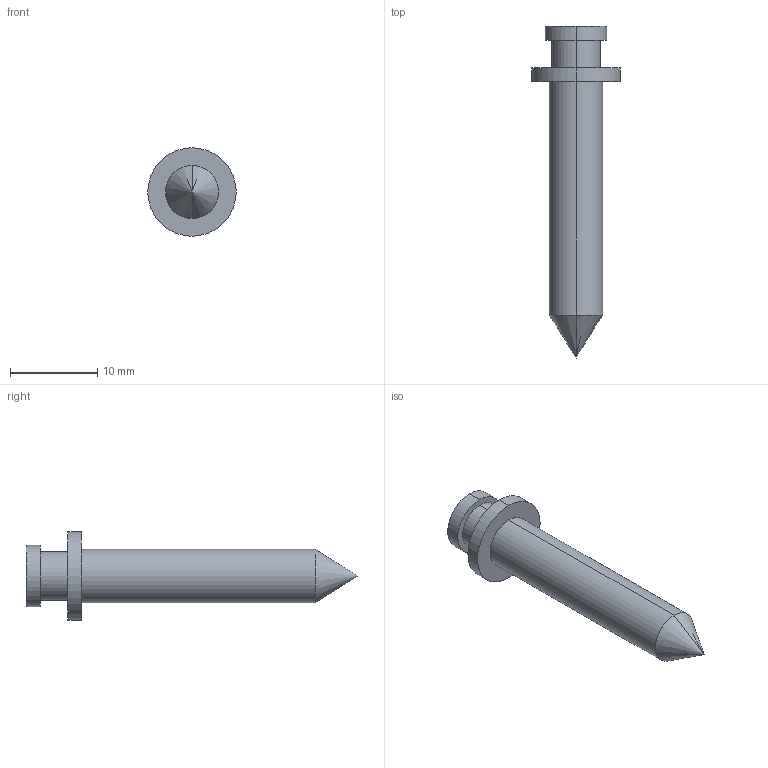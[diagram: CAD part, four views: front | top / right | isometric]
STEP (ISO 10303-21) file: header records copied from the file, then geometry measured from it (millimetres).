
FILE_DESCRIPTION (( 'STEP AP214' ), '1' );
FILE_NAME ('6068_V01_REF_PRT_SH_SCR.STEP', '2025-10-15T11:57:16', ( '' ), ( '' ), 'SwSTEP 2.0', 'SolidWorks 2025', '' );
FILE_SCHEMA (( 'AUTOMOTIVE_DESIGN' ));
Length unit declared in the file: inch
Products named in the file (1): 6068_V01_REF_PRT_SH_SCR
Bounding box: 10.16 x 38.12 x 10.16 mm (x, y, z)
Volume: 1099.4 mm3; surface area: 875.3 mm2
Topology: 1 solids, 1 shells, 14 faces, 28 edges, 17 vertices
Faces by surface type: cylinder 8, plane 4, cone 2
Entity records: 385 total; most frequent: DIRECTION 72, CARTESIAN_POINT 58, ORIENTED_EDGE 52, AXIS2_PLACEMENT_3D 31, EDGE_CURVE 26, EDGE_LOOP 17, VERTEX_POINT 17, CIRCLE 16
